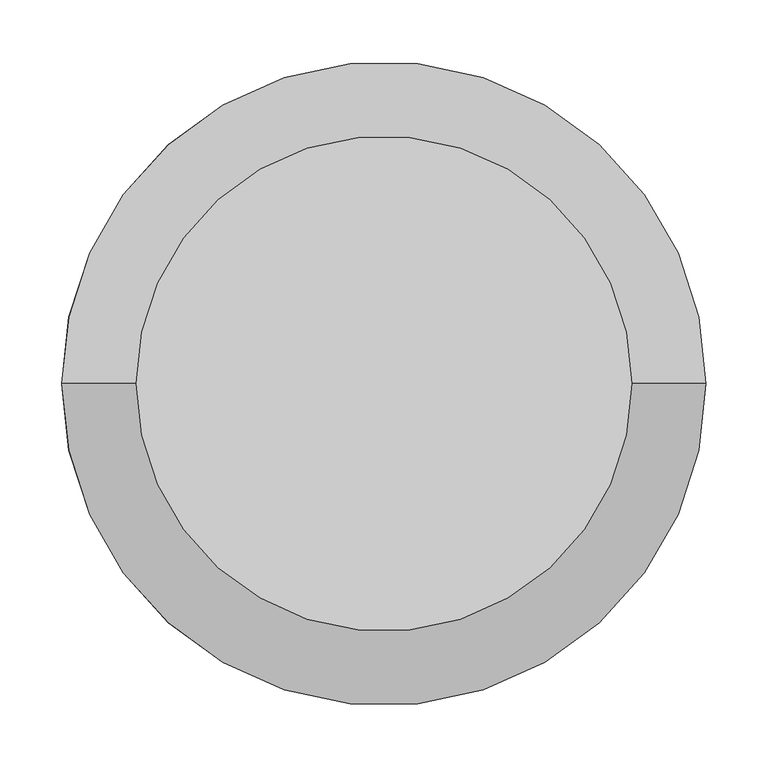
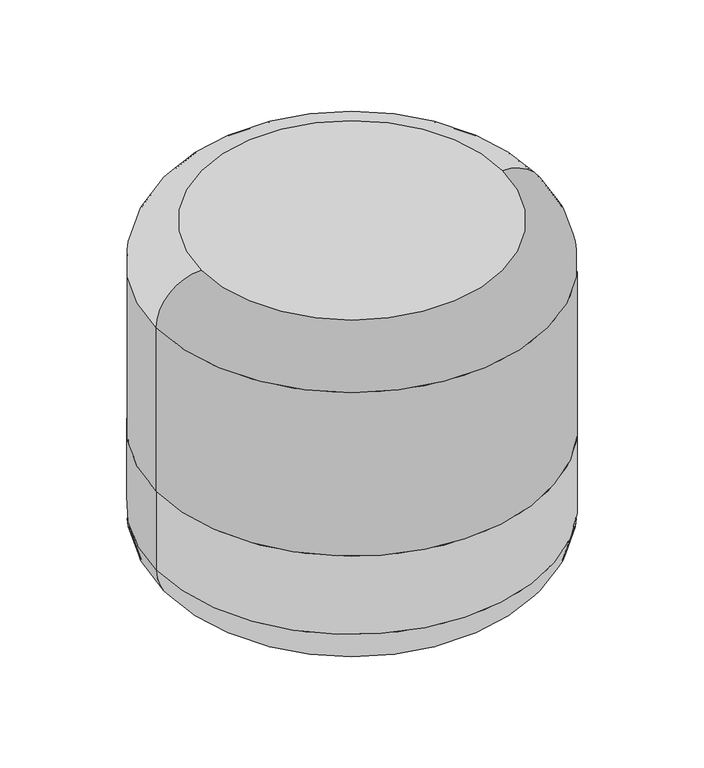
"""IFC4 building model written with IfcOpenShell, lengths in millimetres: furniture geometry, Mobiliário_Mobiliário de Escritório_Puff Blend Redondo 500mm_Marelli : Mobiliário_Mobiliário de Escritório_Puff Blend Redondo 500mm_Marelli."""

from ifc_helpers import new_model, si_unit, point, frame, origin, origin_with_axes, origin_2d, place, context, project, spatial, polyline, circle_curve, ellipse_curve, trimmed, segment, composite_curve, outline, extrude, source, transform, mapped, element, save
from ifc_brep_helpers import plane_surface, cylinder_surface, revolved_surface, advanced_brep


def furniture_e61064c9(model_context):
    return source(origin(), model_context, "Body", "SolidModel", [
        advanced_brep(
        [(-200.0, 0.0, 460.0), (200.0, 0.0, 460.0), (200.0, 0.0, 459.0), (-200.0, 0.0, 459.0), (-260.0, 0.0, 400.0), (260.0, 0.0, 400.0), (259.0, 0.0, 400.0), (-259.0, 0.0, 400.0), (259.0, 0.0, 170.0), (-259.0, 0.0, 170.0), (-260.0, 0.0, 170.0), (260.0, 0.0, 170.0)],
        [
            (0, 1, circle_curve(frame((0.0, 0.0, 460.0), z_axis=(0.0, 0.0, 1.0), x_axis=(-1.0, 0.0, 0.0)), 200.0)),
            (1, 0, circle_curve(frame((0.0, 0.0, 460.0), z_axis=(0.0, 0.0, 1.0), x_axis=(1.0, 0.0, 0.0)), 200.0)),
            (2, 3, circle_curve(frame((0.0, 0.0, 459.0), z_axis=(0.0, 0.0, -1.0), x_axis=(-1.0, 0.0, 0.0)), 200.0)),
            (3, 2, circle_curve(frame((0.0, 0.0, 459.0), z_axis=(0.0, 0.0, -1.0), x_axis=(1.0, 0.0, 0.0)), 200.0)),
            (0, 4, circle_curve(frame((-200.0, 0.0, 400.0), z_axis=(0.0, -1.0, 0.0), x_axis=(-1.0, 0.0, 0.0)), 60.0)),
            (4, 5, circle_curve(frame((0.0, 0.0, 400.0), z_axis=(0.0, 0.0, 1.0), x_axis=(-1.0, 0.0, 0.0)), 260.0)),
            (5, 1, circle_curve(frame((200.0, 0.0, 400.0), z_axis=(0.0, -1.0, 0.0), x_axis=(1.0, 0.0, 0.0)), 60.0)),
            (6, 7, circle_curve(frame((0.0, 0.0, 400.0), z_axis=(0.0, 0.0, -1.0), x_axis=(-1.0, 0.0, 0.0)), 259.0)),
            (7, 3, circle_curve(frame((-200.0, 0.0, 400.0), z_axis=(0.0, 1.0, 0.0), x_axis=(-1.0, 0.0, 0.0)), 59.0)),
            (2, 6, circle_curve(frame((200.0, 0.0, 400.0), z_axis=(0.0, 1.0, 0.0), x_axis=(1.0, 0.0, 0.0)), 59.0)),
            (6, 8),
            (8, 9, circle_curve(frame((0.0, 0.0, 170.0), z_axis=(0.0, 0.0, -1.0), x_axis=(-1.0, 0.0, 0.0)), 259.0)),
            (9, 7),
            (4, 10),
            (10, 11, circle_curve(frame((0.0, 0.0, 170.0), z_axis=(0.0, 0.0, 1.0), x_axis=(-1.0, 0.0, 0.0)), 260.0)),
            (11, 5),
            (5, 4, circle_curve(frame((0.0, 0.0, 400.0), z_axis=(0.0, 0.0, 1.0), x_axis=(1.0, 0.0, 0.0)), 260.0)),
            (7, 6, circle_curve(frame((0.0, 0.0, 400.0), z_axis=(0.0, 0.0, -1.0), x_axis=(1.0, 0.0, 0.0)), 259.0)),
            (9, 8, circle_curve(frame((0.0, 0.0, 170.0), z_axis=(0.0, 0.0, -1.0), x_axis=(1.0, 0.0, 0.0)), 259.0)),
            (10, 11, circle_curve(frame((0.0, 0.0, 170.0), z_axis=(0.0, 0.0, -1.0), x_axis=(1.0, 0.0, 0.0)), 260.0)),
        ],
        [
            plane_surface(frame((160.0, 0.0, 460.0), z_axis=(0.0, 0.0, 1.0), x_axis=(0.0, 1.0, 0.0))),
            plane_surface(frame((160.0, 0.0, 459.0), z_axis=(0.0, 0.0, -1.0), x_axis=(0.0, -1.0, 0.0))),
            revolved_surface(trimmed(ellipse_curve(frame((-200.0, 0.0, 400.0), z_axis=(0.0, 1.0, 0.0), x_axis=(-1.0, 0.0, 0.0)), 60.0, 60.0), [point((-260.0, 0.0, 400.0))], [point((-200.0, 0.0, 460.0))], True, "CARTESIAN"), (0.0, 0.0, 0.0), (0.0, 0.0, 1.0)),
            revolved_surface(trimmed(ellipse_curve(frame((-200.0, 0.0, 400.0), z_axis=(0.0, -1.0, 0.0), x_axis=(-1.0, 0.0, 0.0)), 59.0, 59.0), [point((-200.0, 0.0, 459.0))], [point((-259.0, 0.0, 400.0))], True, "CARTESIAN"), (0.0, 0.0, 0.0), (0.0, 0.0, 1.0)),
            revolved_surface(polyline([(-259.0, 0.0, 400.0), (-259.0, 0.0, 170.0)]), (0.0, 0.0, 0.0), (0.0, 0.0, 1.0)),
            cylinder_surface(frame((0.0, 0.0, 0.0), z_axis=(0.0, 0.0, 1.0), x_axis=(-1.0, 0.0, 0.0)), 260.0),
            revolved_surface(trimmed(ellipse_curve(frame((200.0, 0.0, 400.0), z_axis=(0.0, -1.0, 0.0), x_axis=(1.0, 0.0, 0.0)), 60.0, 60.0), [point((260.0, 0.0, 400.0))], [point((200.0, 0.0, 460.0))], True, "CARTESIAN"), (0.0, 0.0, 0.0), (0.0, 0.0, 1.0)),
            revolved_surface(trimmed(ellipse_curve(frame((200.0, 0.0, 400.0), z_axis=(0.0, 1.0, 0.0), x_axis=(1.0, 0.0, 0.0)), 59.0, 59.0), [point((200.0, 0.0, 459.0))], [point((259.0, 0.0, 400.0))], True, "CARTESIAN"), (0.0, 0.0, 0.0), (0.0, 0.0, 1.0)),
            revolved_surface(polyline([(259.0, 0.0, 400.0), (259.0, 0.0, 170.0)]), (0.0, 0.0, 0.0), (0.0, 0.0, 1.0)),
            plane_surface(frame((0.0, 0.0, 170.0), z_axis=(0.0, 0.0, -1.0), x_axis=(1.0, 0.0, 0.0))),
            cylinder_surface(origin_with_axes(), 260.0),
        ],
        [
            (0, [[1, 2]]),
            (1, [[3, 4]]),
            (2, [[-1, 5, 6, 7]]),
            (3, [[8, 9, -3, 10]]),
            (4, [[-8, 11, 12, 13]]),
            (5, [[-6, 14, 15, 16]]),
            (6, [[-5, -2, -7, 17]]),
            (7, [[-9, 18, -10, -4]]),
            (8, [[-13, 19, -11, -18]]),
            (9, [[-15, 20], [-12, -19]]),
            (10, [[-14, -17, -16, -20]]),
        ],
    ),
        advanced_brep(
        [(160.0, 0.0, 1.0), (-160.0, 0.0, 1.0), (-160.0, 0.0, 0.0), (160.0, 0.0, 0.0), (259.0, 0.0, 60.0), (-259.0, 0.0, 60.0), (-200.0, 0.0, 1.0), (200.0, 0.0, 1.0), (259.0, 0.0, 170.0), (-259.0, 0.0, 170.0), (260.0424122, 0.0, 60.0), (-260.0424122, 0.0, 60.0), (-260.0424122, 0.0, 170.0), (260.0424122, 0.0, 170.0), (200.0, 0.0, 0.0), (-200.0, 0.0, 0.0)],
        [
            (0, 1, circle_curve(frame((0.0, 0.0, 1.0), z_axis=(0.0, 0.0, 1.0), x_axis=(-1.0, 0.0, 0.0)), 160.0)),
            (1, 2),
            (2, 3, circle_curve(frame((0.0, 0.0, 0.0), z_axis=(0.0, 0.0, -1.0), x_axis=(-1.0, 0.0, 0.0)), 160.0)),
            (3, 0),
            (4, 5, circle_curve(frame((0.0, 0.0, 60.0), z_axis=(0.0, 0.0, 1.0), x_axis=(-1.0, 0.0, 0.0)), 259.0)),
            (5, 6, circle_curve(frame((-200.0, 0.0, 60.0), z_axis=(0.0, -1.0, 0.0), x_axis=(-1.0, 0.0, 0.0)), 59.0)),
            (6, 7, circle_curve(frame((0.0, 0.0, 1.0), z_axis=(0.0, 0.0, -1.0), x_axis=(-1.0, 0.0, 0.0)), 200.0)),
            (7, 4, circle_curve(frame((200.0, 0.0, 60.0), z_axis=(0.0, -1.0, 0.0), x_axis=(1.0, 0.0, 0.0)), 59.0)),
            (8, 9, circle_curve(frame((0.0, 0.0, 170.0), z_axis=(0.0, 0.0, 1.0), x_axis=(-1.0, 0.0, 0.0)), 259.0)),
            (9, 5),
            (4, 8),
            (10, 11, circle_curve(frame((0.0, 0.0, 60.0), z_axis=(0.0, 0.0, 1.0), x_axis=(-1.0, 0.0, 0.0)), 260.0424122)),
            (11, 12),
            (12, 13, circle_curve(frame((0.0, 0.0, 170.0), z_axis=(0.0, 0.0, -1.0), x_axis=(-1.0, 0.0, 0.0)), 260.0424122)),
            (13, 10),
            (14, 15, circle_curve(frame((0.0, 0.0, 0.0), z_axis=(0.0, 0.0, 1.0), x_axis=(-1.0, 0.0, 0.0)), 200.0)),
            (15, 11, circle_curve(frame((-200.0, 0.0, 60.0), z_axis=(0.0, 1.0, 0.0), x_axis=(-1.0, 0.0, 0.0)), 60.0)),
            (10, 14, circle_curve(frame((200.0, 0.0, 60.0), z_axis=(0.0, 1.0, 0.0), x_axis=(1.0, 0.0, 0.0)), 60.0)),
            (14, 15, circle_curve(frame((0.0, 0.0, 0.0), z_axis=(0.0, 0.0, -1.0), x_axis=(1.0, 0.0, 0.0)), 200.0)),
            (2, 3, circle_curve(origin_with_axes(), 160.0)),
            (1, 0, circle_curve(frame((0.0, 0.0, 1.0), z_axis=(0.0, 0.0, 1.0), x_axis=(1.0, 0.0, 0.0)), 160.0)),
            (6, 7, circle_curve(frame((0.0, 0.0, 1.0), z_axis=(0.0, 0.0, 1.0), x_axis=(1.0, 0.0, 0.0)), 200.0)),
            (5, 4, circle_curve(frame((0.0, 0.0, 60.0), z_axis=(0.0, 0.0, 1.0), x_axis=(1.0, 0.0, 0.0)), 259.0)),
            (9, 8, circle_curve(frame((0.0, 0.0, 170.0), z_axis=(0.0, 0.0, 1.0), x_axis=(1.0, 0.0, 0.0)), 259.0)),
            (12, 13, circle_curve(frame((0.0, 0.0, 170.0), z_axis=(0.0, 0.0, 1.0), x_axis=(1.0, 0.0, 0.0)), 260.0424122)),
            (11, 10, circle_curve(frame((0.0, 0.0, 60.0), z_axis=(0.0, 0.0, 1.0), x_axis=(1.0, 0.0, 0.0)), 260.0424122)),
        ],
        [
            revolved_surface(polyline([(-160.0, 0.0, 0.0), (-160.0, 0.0, 1.0)]), (0.0, 0.0, 720.0), (0.0, 0.0, -1.0)),
            revolved_surface(trimmed(ellipse_curve(frame((-200.0, 0.0, 60.0), z_axis=(0.0, 1.0, 0.0), x_axis=(-1.0, 0.0, 0.0)), 59.0, 59.0), [point((-200.0, 0.0, 1.0))], [point((-259.0, 0.0, 60.0))], True, "CARTESIAN"), (0.0, 0.0, 720.0), (0.0, 0.0, -1.0)),
            revolved_surface(polyline([(-259.0, 0.0, 60.0), (-259.0, 0.0, 170.0)]), (0.0, 0.0, 720.0), (0.0, 0.0, -1.0)),
            cylinder_surface(frame((0.0, 0.0, 720.0), z_axis=(0.0, 0.0, -1.0), x_axis=(-1.0, 0.0, 0.0)), 260.0424122),
            revolved_surface(trimmed(ellipse_curve(frame((-200.0, 0.0, 60.0), z_axis=(0.0, -1.0, 0.0), x_axis=(-1.0, 0.0, 0.0)), 60.0, 60.0), [point((-260.0, 0.0, 60.0))], [point((-200.0, 0.0, 0.0))], True, "CARTESIAN"), (0.0, 0.0, 720.0), (0.0, 0.0, -1.0)),
            plane_surface(frame((0.0, 0.0, 0.0), z_axis=(0.0, 0.0, -1.0), x_axis=(1.0, 0.0, 0.0))),
            revolved_surface(polyline([(160.0, 0.0, 0.0), (160.0, 0.0, 1.0)]), (0.0, 0.0, 720.0), (0.0, 0.0, -1.0)),
            plane_surface(frame((0.0, 0.0, 1.0), z_axis=(0.0, 0.0, 1.0), x_axis=(1.0, 0.0, 0.0))),
            revolved_surface(trimmed(ellipse_curve(frame((200.0, 0.0, 60.0), z_axis=(0.0, -1.0, 0.0), x_axis=(1.0, 0.0, 0.0)), 59.0, 59.0), [point((200.0, 0.0, 1.0))], [point((259.0, 0.0, 60.0))], True, "CARTESIAN"), (0.0, 0.0, 720.0), (0.0, 0.0, -1.0)),
            revolved_surface(polyline([(259.0, 0.0, 60.0), (259.0, 0.0, 170.0)]), (0.0, 0.0, 720.0), (0.0, 0.0, -1.0)),
            plane_surface(frame((0.0, 0.0, 170.0), z_axis=(0.0, 0.0, 1.0), x_axis=(1.0, 0.0, 0.0))),
            cylinder_surface(frame((0.0, 0.0, 720.0), z_axis=(0.0, 0.0, -1.0), x_axis=(1.0, 0.0, 0.0)), 260.0424122),
            revolved_surface(trimmed(ellipse_curve(frame((200.0, 0.0, 60.0), z_axis=(0.0, 1.0, 0.0), x_axis=(1.0, 0.0, 0.0)), 60.0, 60.0), [point((260.0, 0.0, 60.0))], [point((200.0, 0.0, 0.0))], True, "CARTESIAN"), (0.0, 0.0, 720.0), (0.0, 0.0, -1.0)),
        ],
        [
            (0, [[1, 2, 3, 4]]),
            (1, [[5, 6, 7, 8]]),
            (2, [[9, 10, -5, 11]]),
            (3, [[12, 13, 14, 15]]),
            (4, [[16, 17, -12, 18]]),
            (5, [[19, -16], [20, -3]]),
            (6, [[21, -4, -20, -2]]),
            (7, [[22, -7], [-21, -1]]),
            (8, [[23, -8, -22, -6]]),
            (9, [[24, -11, -23, -10]]),
            (10, [[25, -14], [-24, -9]]),
            (11, [[26, -15, -25, -13]]),
            (12, [[-19, -18, -26, -17]]),
        ],
    ),
        extrude(outline(composite_curve([segment(trimmed(circle_curve(origin_2d(), 160.0), [point((160.0, 0.0))], [point((-160.0, 0.0))], False, "CARTESIAN"), True, "CONTINUOUS"), segment(trimmed(circle_curve(origin_2d(), 160.0), [point((-160.0, 0.0))], [point((160.0, 0.0))], False, "CARTESIAN"), True, "CONTINUOUS")], self_intersect=False)), origin_with_axes(), (0.0, 0.0, 1.0), 1.0),
    ])


if __name__ == "__main__":
    model = new_model("IFC4")
    model_context = context("Model", 3, world=origin())
    ifc_project = project(units=[si_unit("LENGTHUNIT", "METRE", prefix="MILLI")], contexts=[model_context])
    site = spatial("IfcSite", under=ifc_project)
    building = spatial("IfcBuilding", under=site)
    placement = place(None, origin())
    furniture_shape = furniture_e61064c9(model_context)
    element("IfcFurniture", 1, ObjectType="Mobiliário_Mobiliário de Escritório_Puff Blend Redondo 500mm_Marelli : Mobiliário_Mobiliário de Escritório_Puff Blend Redondo 500mm_Marelli", at=placement, inside=building, context=model_context, shape_type="MappedRepresentation", body=[
        mapped(furniture_shape, transform((0.0, 0.0, 0.0), x_axis=(1.0, 0.0, 0.0), y_axis=(0.0, 1.0, 0.0), z_axis=(0.0, 0.0, 1.0))),
    ])
    save(model, "model.ifc")
